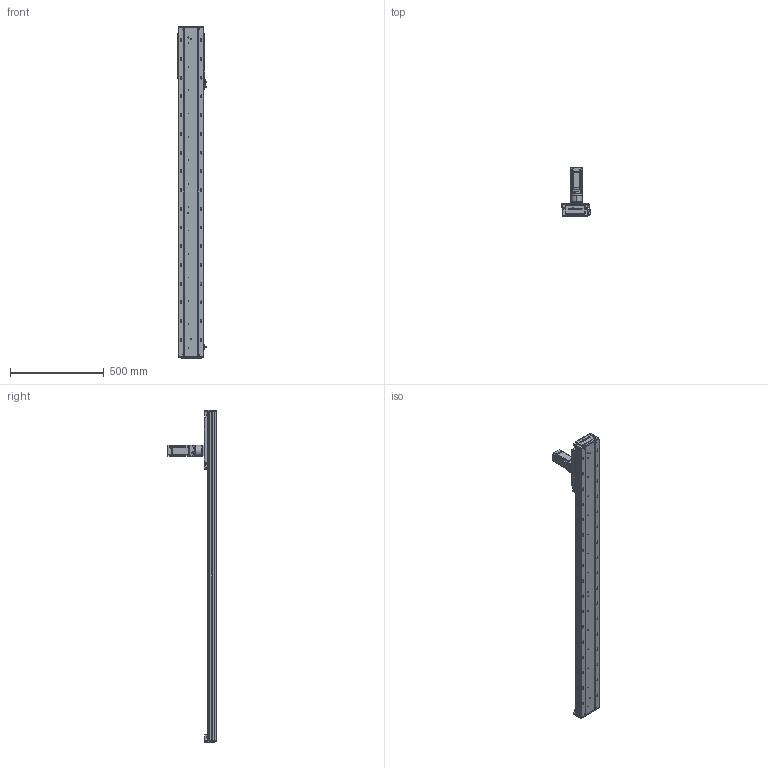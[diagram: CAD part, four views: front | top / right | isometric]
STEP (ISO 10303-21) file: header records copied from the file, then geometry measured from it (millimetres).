
FILE_DESCRIPTION (( 'STEP AP203' ), '1' );
FILE_NAME ('RY140-C-250-UK.SLDASM_1400.step', '2022-03-12T01:59:12', ( '' ), ( '' ), 'SwSTEP 2.0', 'SolidWorks 2016', '' );
FILE_SCHEMA (( 'CONFIG_CONTROL_DESIGN' ));
Length unit declared in the file: millimetre
Products named in the file (12): RY140-C-250-UK.SLDASM_1400; RY120外置感应片(140共用）; 140蚥薯蝶輸; RY140-絳寢EGH15-300-MK_1400; 覜茼ん672; 60ZDF珨撰俋倛芞T1 200W M4; RY140-喘沭裔啣; 絳寢賑輸EGH15; RY140-喘謫萇儂覃誹啣; 15; RY140-300齿条模组型材底座_1400; RY140-喘沭賑輸
Assembly tree (21 placements, depth 2):
  RY140-C-250-UK.SLDASM_1400
    RY140-300齿条模组型材底座_1400
    RY140-絳寢EGH15-300-MK_1400  x2
    絳寢賑輸EGH15  x6
    RY140-喘沭裔啣  x2
    覜茼ん672  x3
    RY140-喘沭賑輸
    RY120外置感应片(140共用）
    RY140-喘謫萇儂覃誹啣
    140蚥薯蝶輸  x2
    60ZDF珨撰俋倛芞T1 200W M4
    15
Bounding box: 153.7 x 263.5 x 1772 mm (x, y, z)
Volume: 6025737.6 mm3; surface area: 1611267.6 mm2
Topology: 21 solids, 21 shells, 3624 faces, 9666 edges, 6244 vertices
Faces by surface type: plane 1668, cylinder 1646, cone 264, bspline 46
Entity records: 82401 total; most frequent: CARTESIAN_POINT 18162, DIRECTION 13089, ORIENTED_EDGE 13066, EDGE_CURVE 6533, AXIS2_PLACEMENT_3D 4700, VERTEX_POINT 4277, LINE 3689, VECTOR 3689
